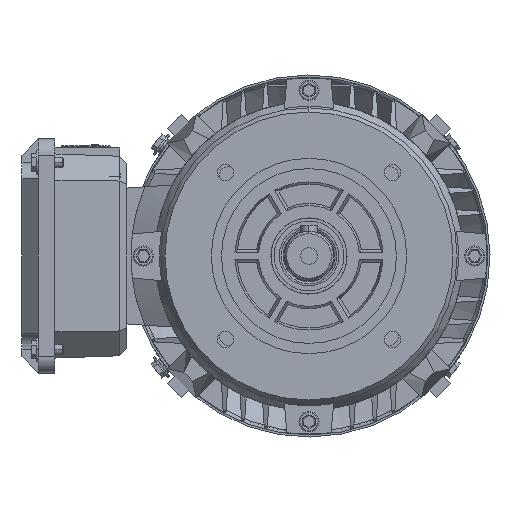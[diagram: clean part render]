
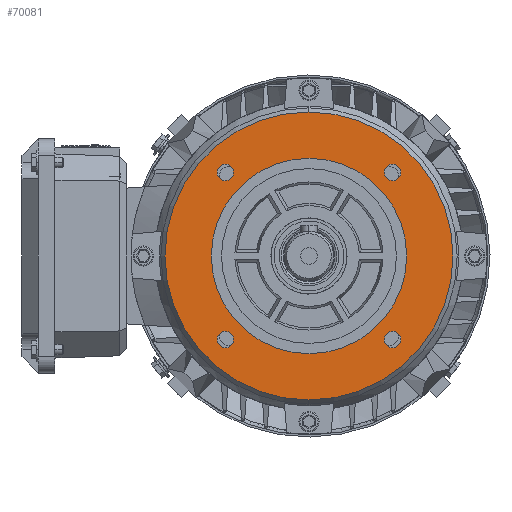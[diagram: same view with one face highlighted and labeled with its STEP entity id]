
A CAD part, left-side view. The second image highlights one B-rep face of the part: STEP entity #70081.
In plain terms, the highlighted planar face has unit normal (-1, 0, 0).
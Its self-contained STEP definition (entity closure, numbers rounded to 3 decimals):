
#66983 = VERTEX_POINT ( 'NONE', #79478 ) ;
#66985 = VERTEX_POINT ( 'NONE', #79455 ) ;
#67014 = EDGE_CURVE ( 'NONE', #67015, #67016, #79528, .T. ) ;
#67015 = VERTEX_POINT ( 'NONE', #79510 ) ;
#67016 = VERTEX_POINT ( 'NONE', #79508 ) ;
#67047 = EDGE_CURVE ( 'NONE', #67052, #67055, #79606, .T. ) ;
#67052 = VERTEX_POINT ( 'NONE', #79598 ) ;
#67055 = VERTEX_POINT ( 'NONE', #79597 ) ;
#67087 = EDGE_CURVE ( 'NONE', #67088, #67089, #79673, .T. ) ;
#67088 = VERTEX_POINT ( 'NONE', #79653 ) ;
#67089 = VERTEX_POINT ( 'NONE', #79651 ) ;
#67126 = EDGE_CURVE ( 'NONE', #66983, #66985, #79835, .T. ) ;
#67819 = EDGE_CURVE ( 'NONE', #67820, #67822, #81932, .T. ) ;
#67820 = VERTEX_POINT ( 'NONE', #81924 ) ;
#67822 = VERTEX_POINT ( 'NONE', #81922 ) ;
#67939 = VERTEX_POINT ( 'NONE', #82205 ) ;
#67941 = EDGE_CURVE ( 'NONE', #67944, #67939, #82199, .T. ) ;
#67944 = VERTEX_POINT ( 'NONE', #82191 ) ;
#70048 = EDGE_LOOP ( 'NONE', ( #70050, #70055 ) ) ;
#70050 = ORIENTED_EDGE ( 'NONE', *, *, #70052, .T. ) ;
#70052 = EDGE_CURVE ( 'NONE', #66985, #66983, #88163, .T. ) ;
#70055 = ORIENTED_EDGE ( 'NONE', *, *, #67126, .T. ) ;
#70056 = EDGE_LOOP ( 'NONE', ( #70057, #70059 ) ) ;
#70057 = ORIENTED_EDGE ( 'NONE', *, *, #70058, .T. ) ;
#70058 = EDGE_CURVE ( 'NONE', #67089, #67088, #88152, .T. ) ;
#70059 = ORIENTED_EDGE ( 'NONE', *, *, #67087, .T. ) ;
#70062 = EDGE_LOOP ( 'NONE', ( #70064, #70157 ) ) ;
#70064 = ORIENTED_EDGE ( 'NONE', *, *, #67819, .F. ) ;
#70080 = EDGE_CURVE ( 'NONE', #67939, #67944, #88135, .T. ) ;
#70081 = ADVANCED_FACE ( 'NONE', ( #88115, #88113, #88112, #88110, #88108, #88106 ), #88105, .F. ) ;
#70082 = EDGE_LOOP ( 'NONE', ( #70084, #70179 ) ) ;
#70084 = ORIENTED_EDGE ( 'NONE', *, *, #70086, .T. ) ;
#70086 = EDGE_CURVE ( 'NONE', #67055, #67052, #88251, .T. ) ;
#70090 = EDGE_LOOP ( 'NONE', ( #70181, #70185 ) ) ;
#70157 = ORIENTED_EDGE ( 'NONE', *, *, #70159, .F. ) ;
#70159 = EDGE_CURVE ( 'NONE', #67822, #67820, #88466, .T. ) ;
#70164 = EDGE_LOOP ( 'NONE', ( #70165, #70166 ) ) ;
#70165 = ORIENTED_EDGE ( 'NONE', *, *, #67941, .T. ) ;
#70166 = ORIENTED_EDGE ( 'NONE', *, *, #70080, .T. ) ;
#70179 = ORIENTED_EDGE ( 'NONE', *, *, #67047, .T. ) ;
#70181 = ORIENTED_EDGE ( 'NONE', *, *, #70183, .T. ) ;
#70183 = EDGE_CURVE ( 'NONE', #67016, #67015, #88439, .T. ) ;
#70185 = ORIENTED_EDGE ( 'NONE', *, *, #67014, .T. ) ;
#79455 = CARTESIAN_POINT ( 'NONE',  ( 0., 40.659, 36.659 ) ) ;
#79478 = CARTESIAN_POINT ( 'NONE',  ( 0., 40.659, 44.659 ) ) ;
#79508 = CARTESIAN_POINT ( 'NONE',  ( 0., 40.659, -44.659 ) ) ;
#79510 = CARTESIAN_POINT ( 'NONE',  ( 0., 40.659, -36.659 ) ) ;
#79512 = DIRECTION ( 'NONE',  ( 0., 0., -1. ) ) ;
#79514 = DIRECTION ( 'NONE',  ( 1., 0., 0. ) ) ;
#79516 = CARTESIAN_POINT ( 'NONE',  ( 0., 40.659, -40.659 ) ) ;
#79517 = AXIS2_PLACEMENT_3D ( 'NONE', #79516, #79514, #79512 ) ;
#79528 = CIRCLE ( 'NONE', #79517, 4. ) ;
#79597 = CARTESIAN_POINT ( 'NONE',  ( 0., -40.659, -44.659 ) ) ;
#79598 = CARTESIAN_POINT ( 'NONE',  ( 0., -40.659, -36.659 ) ) ;
#79600 = DIRECTION ( 'NONE',  ( 0., 0., -1. ) ) ;
#79601 = DIRECTION ( 'NONE',  ( 1., 0., 0. ) ) ;
#79603 = CARTESIAN_POINT ( 'NONE',  ( 0., -40.659, -40.659 ) ) ;
#79604 = AXIS2_PLACEMENT_3D ( 'NONE', #79603, #79601, #79600 ) ;
#79606 = CIRCLE ( 'NONE', #79604, 4. ) ;
#79651 = CARTESIAN_POINT ( 'NONE',  ( 0., -40.659, 36.659 ) ) ;
#79653 = CARTESIAN_POINT ( 'NONE',  ( 0., -40.659, 44.659 ) ) ;
#79655 = DIRECTION ( 'NONE',  ( 0., 0., -1. ) ) ;
#79657 = DIRECTION ( 'NONE',  ( 1., 0., 0. ) ) ;
#79659 = CARTESIAN_POINT ( 'NONE',  ( 0., -40.659, 40.659 ) ) ;
#79660 = AXIS2_PLACEMENT_3D ( 'NONE', #79659, #79657, #79655 ) ;
#79673 = CIRCLE ( 'NONE', #79660, 4. ) ;
#79828 = DIRECTION ( 'NONE',  ( 0., 0., -1. ) ) ;
#79830 = DIRECTION ( 'NONE',  ( 1., 0., 0. ) ) ;
#79832 = CARTESIAN_POINT ( 'NONE',  ( 0., 40.659, 40.659 ) ) ;
#79834 = AXIS2_PLACEMENT_3D ( 'NONE', #79832, #79830, #79828 ) ;
#79835 = CIRCLE ( 'NONE', #79834, 4. ) ;
#81922 = CARTESIAN_POINT ( 'NONE',  ( 0., 0., -47.5 ) ) ;
#81924 = CARTESIAN_POINT ( 'NONE',  ( 0., 0., 47.5 ) ) ;
#81925 = DIRECTION ( 'NONE',  ( 0., 0., 1. ) ) ;
#81927 = DIRECTION ( 'NONE',  ( -1., 0., 0. ) ) ;
#81928 = CARTESIAN_POINT ( 'NONE',  ( 0., 0., 0. ) ) ;
#81930 = AXIS2_PLACEMENT_3D ( 'NONE', #81928, #81927, #81925 ) ;
#81932 = CIRCLE ( 'NONE', #81930, 47.5 ) ;
#82191 = CARTESIAN_POINT ( 'NONE',  ( 0., 0., 70. ) ) ;
#82193 = DIRECTION ( 'NONE',  ( 0., 0., 1. ) ) ;
#82194 = DIRECTION ( 'NONE',  ( -1., 0., 0. ) ) ;
#82196 = CARTESIAN_POINT ( 'NONE',  ( 0., 0., 0. ) ) ;
#82197 = AXIS2_PLACEMENT_3D ( 'NONE', #82196, #82194, #82193 ) ;
#82199 = CIRCLE ( 'NONE', #82197, 70. ) ;
#82205 = CARTESIAN_POINT ( 'NONE',  ( 0., 0., -70. ) ) ;
#88014 = CARTESIAN_POINT ( 'NONE',  ( 0., 40.659, 40.659 ) ) ;
#88095 = DIRECTION ( 'NONE',  ( 0., 0., -1. ) ) ;
#88096 = DIRECTION ( 'NONE',  ( 1., 0., 0. ) ) ;
#88097 = AXIS2_PLACEMENT_3D ( 'NONE', #88103, #88096, #88095 ) ;
#88103 = CARTESIAN_POINT ( 'NONE',  ( 0., -7.318, 0. ) ) ;
#88105 = PLANE ( 'NONE',  #88097 ) ;
#88106 = FACE_OUTER_BOUND ( 'NONE', #70164, .T. ) ;
#88108 = FACE_BOUND ( 'NONE', #70062, .T. ) ;
#88110 = FACE_BOUND ( 'NONE', #70056, .T. ) ;
#88112 = FACE_BOUND ( 'NONE', #70048, .T. ) ;
#88113 = FACE_BOUND ( 'NONE', #70090, .T. ) ;
#88115 = FACE_BOUND ( 'NONE', #70082, .T. ) ;
#88117 = DIRECTION ( 'NONE',  ( 0., 0., 1. ) ) ;
#88119 = DIRECTION ( 'NONE',  ( -1., 0., 0. ) ) ;
#88121 = CARTESIAN_POINT ( 'NONE',  ( 0., 0., 0. ) ) ;
#88123 = AXIS2_PLACEMENT_3D ( 'NONE', #88121, #88119, #88117 ) ;
#88135 = CIRCLE ( 'NONE', #88123, 70. ) ;
#88145 = DIRECTION ( 'NONE',  ( 0., 0., -1. ) ) ;
#88147 = DIRECTION ( 'NONE',  ( 1., 0., 0. ) ) ;
#88149 = CARTESIAN_POINT ( 'NONE',  ( 0., -40.659, 40.659 ) ) ;
#88150 = AXIS2_PLACEMENT_3D ( 'NONE', #88149, #88147, #88145 ) ;
#88152 = CIRCLE ( 'NONE', #88150, 4. ) ;
#88158 = DIRECTION ( 'NONE',  ( 0., 0., -1. ) ) ;
#88160 = DIRECTION ( 'NONE',  ( 1., 0., 0. ) ) ;
#88162 = AXIS2_PLACEMENT_3D ( 'NONE', #88014, #88160, #88158 ) ;
#88163 = CIRCLE ( 'NONE', #88162, 4. ) ;
#88244 = DIRECTION ( 'NONE',  ( 0., 0., -1. ) ) ;
#88246 = DIRECTION ( 'NONE',  ( 1., 0., 0. ) ) ;
#88247 = CARTESIAN_POINT ( 'NONE',  ( 0., -40.659, -40.659 ) ) ;
#88249 = AXIS2_PLACEMENT_3D ( 'NONE', #88247, #88246, #88244 ) ;
#88251 = CIRCLE ( 'NONE', #88249, 4. ) ;
#88325 = CARTESIAN_POINT ( 'NONE',  ( 0., 0., 0. ) ) ;
#88432 = DIRECTION ( 'NONE',  ( 0., 0., -1. ) ) ;
#88433 = DIRECTION ( 'NONE',  ( 1., 0., 0. ) ) ;
#88435 = CARTESIAN_POINT ( 'NONE',  ( 0., 40.659, -40.659 ) ) ;
#88437 = AXIS2_PLACEMENT_3D ( 'NONE', #88435, #88433, #88432 ) ;
#88439 = CIRCLE ( 'NONE', #88437, 4. ) ;
#88461 = DIRECTION ( 'NONE',  ( 0., 0., 1. ) ) ;
#88463 = DIRECTION ( 'NONE',  ( -1., 0., 0. ) ) ;
#88465 = AXIS2_PLACEMENT_3D ( 'NONE', #88325, #88463, #88461 ) ;
#88466 = CIRCLE ( 'NONE', #88465, 47.5 ) ;
